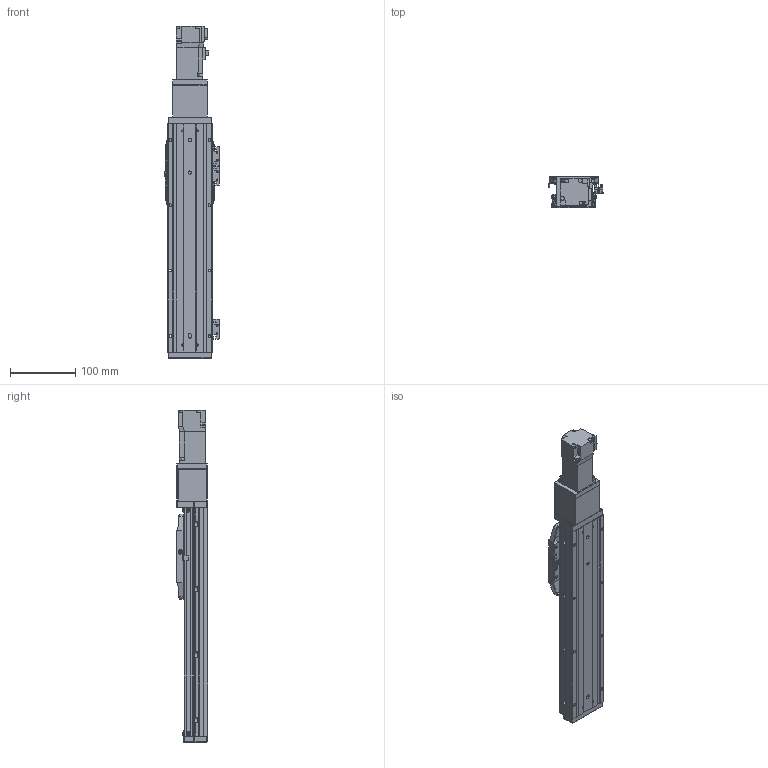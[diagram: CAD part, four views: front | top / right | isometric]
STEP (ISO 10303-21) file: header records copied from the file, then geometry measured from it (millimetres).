
FILE_DESCRIPTION (( 'STEP AP214' ), '1' );
FILE_NAME ('CTHA60-200-BC-M10-C4L.step', '2022-03-19T06:09:35', ( '微软用户' ), ( '微软中国' ), 'SwSTEP 2.0', 'SolidWorks 2020', '' );
FILE_SCHEMA (( 'AUTOMOTIVE_DESIGN' ));
Length unit declared in the file: millimetre
Products named in the file (19): GBT 70.1-M3℅6; CTHA60-027; CTHA60-004; HG-KR13（三菱）; EE_SX911P_R; CTHA60-200-BC-M10-C4L; GBT 70.1-M4×16; GBT 70.3-M3℅6; CTHA60-013; CTHA60-005; CTHA60-002; CTHA60-017; GBT77-2000 M3×3; CTHA60-016; CTHA60-001_350; CTHA60-006; GB¨uT 70.2-M3¡Á6_M3¡Á6; CTHA60-031; CTHA60-021
Assembly tree (57 placements, depth 2):
  CTHA60-200-BC-M10-C4L
    CTHA60-001_350
    CTHA60-004
    CTHA60-005
    GB¨uT 70.2-M3¡Á6_M3¡Á6  x10
    EE_SX911P_R  x3
    CTHA60-017  x3
    CTHA60-021  x2
    GBT 70.1-M4×16  x10
    GBT77-2000 M3×3  x6
    GBT 70.1-M3℅6  x6
    GBT 70.3-M3℅6  x6
    CTHA60-016  x2
    CTHA60-027
    CTHA60-013
    CTHA60-006
    HG-KR13（三菱）
    CTHA60-002
    CTHA60-031
Bounding box: 83.12 x 48 x 508.6 mm (x, y, z)
Volume: 895715.5 mm3; surface area: 254831.5 mm2
Topology: 59 solids, 59 shells, 2395 faces, 5685 edges, 3479 vertices
Faces by surface type: plane 1390, cylinder 531, cone 354, torus 96, sphere 24
Entity records: 37172 total; most frequent: CARTESIAN_POINT 6256, DIRECTION 6162, ORIENTED_EDGE 5950, EDGE_CURVE 2975, VECTOR 2190, LINE 2190, AXIS2_PLACEMENT_3D 1986, VERTEX_POINT 1876
